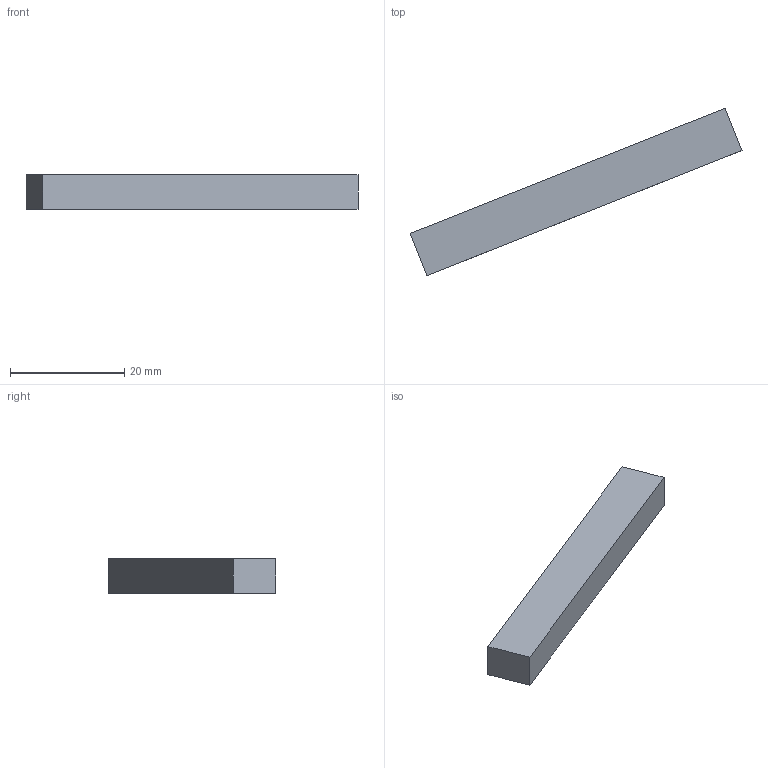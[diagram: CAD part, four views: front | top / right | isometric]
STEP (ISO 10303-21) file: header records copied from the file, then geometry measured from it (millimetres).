
FILE_DESCRIPTION(('Open CASCADE Model'),'2;1');
FILE_NAME('Open CASCADE Shape Model','2026-10-04T02:31:35',('Author'),( 'Open CASCADE'),'Open CASCADE STEP processor 8.0','Open CASCADE 8.0' ,'Unknown');
FILE_SCHEMA(('AUTOMOTIVE_DESIGN { 1 0 10303 214 1 1 1 1 }'));
Length unit declared in the file: millimetre
Products named in the file (1): Open CASCADE STEP translator 8.0 35
Bounding box: 58.08 x 29.35 x 6 mm (x, y, z)
Volume: 2847.6 mm3; surface area: 1757.1 mm2
Topology: 1 solids, 1 shells, 6 faces, 12 edges, 8 vertices
Faces by surface type: plane 6
Entity records: 322 total; most frequent: CARTESIAN_POINT 51, DIRECTION 50, LINE 36, VECTOR 36, ORIENTED_EDGE 24, PCURVE 24, DEFINITIONAL_REPRESENTATION 24, EDGE_CURVE 12
